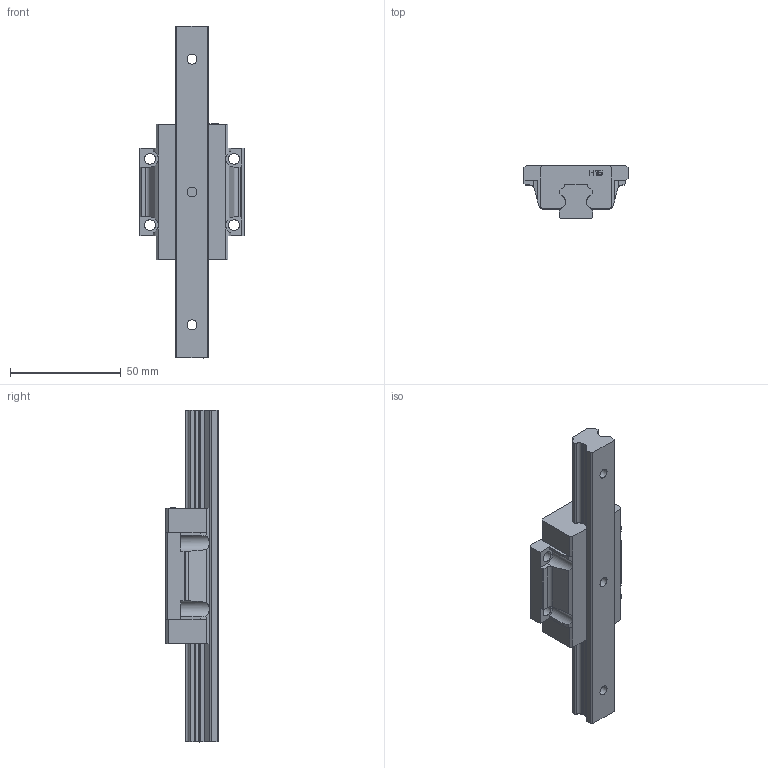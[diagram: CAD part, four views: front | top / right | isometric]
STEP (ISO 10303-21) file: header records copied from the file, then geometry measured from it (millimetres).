
FILE_DESCRIPTION(/* description */ (''),/* implementation_level */ '2;1');
FILE_NAME(/* name */ 'HGW15CC.stp',/* time_stamp */ '2021-05-18T22:49:54+08:00',/* author */ (''),/* organization */ (''),/* preprocessor_version */ 'ST-DEVELOPER v15',/* originating_system */ 'SIEMENS PLM Software NX 8.5',/* authorisation */ '');
FILE_SCHEMA (('CONFIG_CONTROL_DESIGN'));
Length unit declared in the file: millimetre
Products named in the file (1): _model2
Bounding box: 47 x 24 x 150 mm (x, y, z)
Volume: 63015.9 mm3; surface area: 20773.6 mm2
Topology: 2 solids, 2 shells, 215 faces, 609 edges, 404 vertices
Faces by surface type: plane 173, cylinder 42
Full cylindrical faces by diameter (mm): 4.5 x3, 5 x4, 7.5 x3
Entity records: 6965 total; most frequent: CARTESIAN_POINT 1231, ORIENTED_EDGE 1194, DIRECTION 1125, EDGE_CURVE 597, LINE 493, VECTOR 493, VERTEX_POINT 402, AXIS2_PLACEMENT_3D 316
